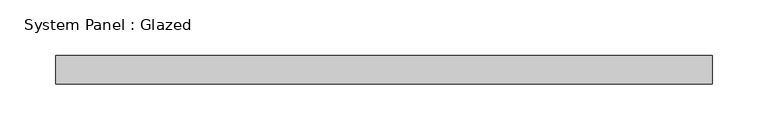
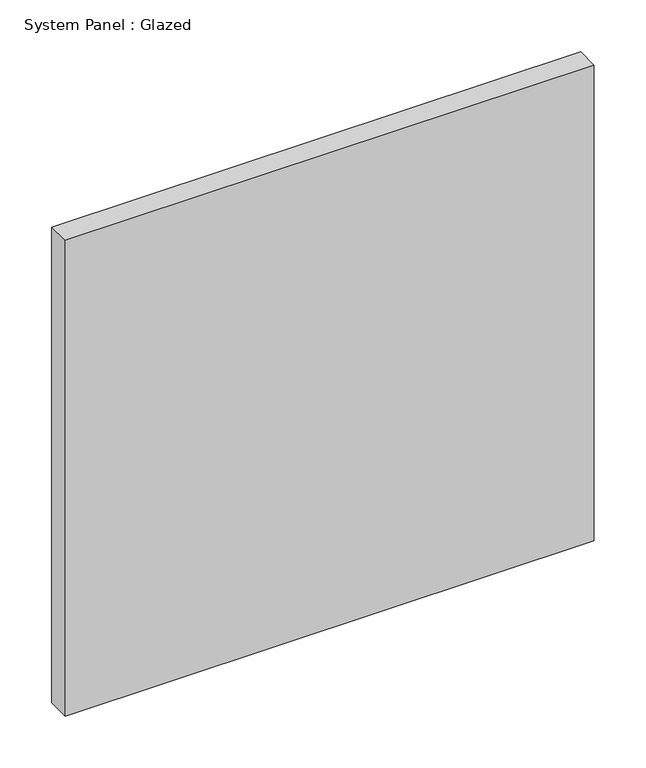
"""IFC4 building model written with IfcOpenShell, lengths in millimetres: plate geometry, System Panel : Glazed."""

import ifcopenshell
import ifcopenshell.guid

model = None  # the IFC model being written
_history = None  # IfcOwnerHistory: only IFC2X3 demands one
_inside = {}  # id of a spatial element -> (the spatial element, [elements in it])
_under = {}  # id of a project, library or spatial element -> (it, [spatial elements below it])
_declared = {}  # id of a project -> (the project, [libraries it declares])
_typed = {}  # id of a type object -> (the type object, [elements of that type])
_made_of = {}  # id of a material, layer set ... -> (it, [elements and type objects made of it])


def new_model(schema):
    """Start an empty IFC model of exactly this schema.

    Asked for "IFC4X3", IfcOpenShell would pick the latest addendum, in which some entities
    have other attributes; the version numbers below select the first issue.
    IFC2X3 requires an IfcOwnerHistory on every rooted entity: one is made here for all.
    """
    global model, _history
    if schema == "IFC4X3":
        model = ifcopenshell.file(schema_version=(4, 3, 0, 0))
    else:
        model = ifcopenshell.file(schema=schema)
    _inside.clear()
    _under.clear()
    _declared.clear()
    _typed.clear()
    _made_of.clear()
    _history = None
    if model.schema == "IFC2X3":
        org = make("IfcOrganization", Name="unknown")
        user = make(
            "IfcPersonAndOrganization",
            ThePerson=make("IfcPerson", FamilyName="unknown"),
            TheOrganization=org,
        )
        app = make(
            "IfcApplication",
            ApplicationDeveloper=org,
            Version="unknown",
            ApplicationFullName="unknown",
            ApplicationIdentifier="unknown",
        )
        _history = make(
            "IfcOwnerHistory",
            OwningUser=user,
            OwningApplication=app,
            ChangeAction="ADDED",
            CreationDate=0,
        )
    return model


def make(cls, **values):
    """One entity of the class cls with the attributes given. An attribute that is None is left unset."""
    return model.create_entity(
        cls, **{name: value for name, value in values.items() if value is not None}
    )


def rooted(cls, **values):
    """An entity with a GlobalId (a new one), such as an element, a storey or a relation."""
    return make(cls, GlobalId=ifcopenshell.guid.new(), OwnerHistory=_history, **values)


def si_unit(unit_type, name, prefix=None):
    """IfcSIUnit, for example si_unit("LENGTHUNIT", "METRE", prefix="MILLI")."""
    return make("IfcSIUnit", UnitType=unit_type, Prefix=prefix, Name=name)


def assignment(units):
    """IfcUnitAssignment: the units of a project."""
    return None if units is None else make("IfcUnitAssignment", Units=units)


def point(xyz):
    """IfcCartesianPoint."""
    return None if xyz is None else make("IfcCartesianPoint", Coordinates=xyz)


def direction(xyz):
    """IfcDirection."""
    return None if xyz is None else make("IfcDirection", DirectionRatios=xyz)


def frame(location, z_axis=None, x_axis=None):
    """IfcAxis2Placement3D, a coordinate frame: its origin and axes. An axis left out is left unset."""
    return make(
        "IfcAxis2Placement3D",
        Location=point(location),
        Axis=direction(z_axis),
        RefDirection=direction(x_axis),
    )


def origin():
    """The frame at (0, 0, 0) with its axes left unset."""
    return frame((0.0, 0.0, 0.0))


def origin_with_axes():
    """The frame at (0, 0, 0) with the z axis (0, 0, 1) and the x axis (1, 0, 0) written out."""
    return frame((0.0, 0.0, 0.0), z_axis=(0.0, 0.0, 1.0), x_axis=(1.0, 0.0, 0.0))


def place(relative_to, where):
    """IfcLocalPlacement: puts the frame where relative to a parent placement (None: the world)."""
    return make(
        "IfcLocalPlacement", PlacementRelTo=relative_to, RelativePlacement=where
    )


def context(
    kind, dimensions, precision=None, world=None, true_north=None, identifier=None
):
    """IfcGeometricRepresentationContext, for example the 3D "Model" context."""
    return make(
        "IfcGeometricRepresentationContext",
        ContextIdentifier=identifier,
        ContextType=kind,
        CoordinateSpaceDimension=dimensions,
        Precision=precision,
        WorldCoordinateSystem=world,
        TrueNorth=true_north,
    )


def project(units=None, contexts=None):
    """IfcProject with its units and contexts."""
    return rooted(
        "IfcProject",
        Name="project",
        RepresentationContexts=contexts,
        UnitsInContext=assignment(units),
    )


def spatial(cls, under=None, at=None, **own):
    """A site, building, storey or space (cls), placed at a placement, below another one or the project."""
    s = rooted(cls, ObjectPlacement=at, **own)
    if under is not None:
        _under.setdefault(under.id(), (under, []))[1].append(s)
    return s


def polyline(points):
    """IfcPolyline through the points."""
    return make("IfcPolyline", Points=[point(p) for p in points])


def outline(outer, holes=None, kind="AREA"):
    """IfcArbitraryClosedProfileDef: a profile drawn as a closed curve; with holes, ...WithVoids."""
    if holes is None:
        return make("IfcArbitraryClosedProfileDef", ProfileType=kind, OuterCurve=outer)
    return make(
        "IfcArbitraryProfileDefWithVoids",
        ProfileType=kind,
        OuterCurve=outer,
        InnerCurves=holes,
    )


def extrude(swept, where, along, depth):
    """IfcExtrudedAreaSolid: the profile swept, set in the frame where, extruded along a direction by depth."""
    return make(
        "IfcExtrudedAreaSolid",
        SweptArea=swept,
        Position=where,
        ExtrudedDirection=direction(along),
        Depth=depth,
    )


def shape(context_of_items, identifier, shape_type, items):
    """IfcShapeRepresentation: the items that make up one representation, for example the "Body"."""
    return make(
        "IfcShapeRepresentation",
        ContextOfItems=context_of_items,
        RepresentationIdentifier=identifier,
        RepresentationType=shape_type,
        Items=items,
    )


def source(mapping_origin, context_of_items, identifier, shape_type, items):
    """IfcRepresentationMap: a shape defined once, which mapped items show again and again."""
    return make(
        "IfcRepresentationMap",
        MappingOrigin=mapping_origin,
        MappedRepresentation=shape(context_of_items, identifier, shape_type, items),
    )


def transform(
    local_origin,
    x_axis=None,
    y_axis=None,
    z_axis=None,
    scale=None,
    scale2=None,
    scale3=None,
    uniform=True,
):
    """IfcCartesianTransformationOperator3D, or its non-uniform kind. x_axis, y_axis, z_axis: its Axis1, 2, 3."""
    if uniform:
        return make(
            "IfcCartesianTransformationOperator3D",
            Axis1=direction(x_axis),
            Axis2=direction(y_axis),
            LocalOrigin=point(local_origin),
            Scale=scale,
            Axis3=direction(z_axis),
        )
    return make(
        "IfcCartesianTransformationOperator3DnonUniform",
        Axis1=direction(x_axis),
        Axis2=direction(y_axis),
        LocalOrigin=point(local_origin),
        Scale=scale,
        Axis3=direction(z_axis),
        Scale2=scale2,
        Scale3=scale3,
    )


def mapped(mapping_source, mapping_target):
    """IfcMappedItem: shows the shape of a source again, moved by a transform."""
    return make(
        "IfcMappedItem", MappingSource=mapping_source, MappingTarget=mapping_target
    )


def made_of(thing, what):
    """Note that an element or type object is made of a material, layer set ...; save() writes the relation."""
    if what is not None:
        _made_of.setdefault(what.id(), (what, []))[1].append(thing)
    return thing


def element(
    cls,
    number,
    at=None,
    inside=None,
    cuts=None,
    type_object=None,
    material=None,
    context=None,
    identifier="Body",
    shape_type=None,
    held_by="IfcProductDefinitionShape",
    body=None,
    shapes=None,
    **own,
):
    """One element of the class cls, such as IfcWall. Its Tag is "e" and its number.

    at: its placement. inside: the storey or other place that contains it. cuts: it is an
    opening in that element (IfcRelVoidsElement). A single representation is given by context,
    identifier, shape_type and body (its items); several are given by shapes. held_by: the class
    of the entity that holds the representations. save() writes the other relations.
    """
    e = rooted(cls, Tag="e%d" % number, ObjectPlacement=at, **own)
    if body is not None:
        shapes = [shape(context, identifier, shape_type, body)]
    if shapes is not None:
        e.Representation = make(held_by, Representations=shapes)
    if inside is not None:
        _inside.setdefault(inside.id(), (inside, []))[1].append(e)
    if cuts is not None:
        rooted(
            "IfcRelVoidsElement", RelatingBuildingElement=cuts, RelatedOpeningElement=e
        )
    if type_object is not None:
        _typed.setdefault(type_object.id(), (type_object, []))[1].append(e)
    return made_of(e, material)


def aggregate(whole, parts):
    """IfcRelAggregates: a whole, such as a stair, and the parts it consists of."""
    return rooted("IfcRelAggregates", RelatingObject=whole, RelatedObjects=parts)


def save(model, path):
    """Write the relations noted so far, then the file.

    IfcRelAggregates (storeys below a building ...), IfcRelContainedInSpatialStructure (elements
    in a storey), IfcRelDefinesByType, IfcRelAssociatesMaterial and IfcRelDeclares: one each for
    every whole, place, type object, material and project.
    """
    for whole, parts in _under.values():
        aggregate(whole, parts)
    for where, things in _inside.values():
        rooted(
            "IfcRelContainedInSpatialStructure",
            RelatedElements=things,
            RelatingStructure=where,
        )
    for kind, things in _typed.values():
        rooted("IfcRelDefinesByType", RelatedObjects=things, RelatingType=kind)
    for what, things in _made_of.values():
        rooted("IfcRelAssociatesMaterial", RelatedObjects=things, RelatingMaterial=what)
    for by, libraries in _declared.values():
        rooted("IfcRelDeclares", RelatingContext=by, RelatedDefinitions=libraries)
    model.write(path)


def system_panel_glazed_b07b32a6(model_context):
    return source(origin(), model_context, "Body", "SweptSolid", [
        extrude(outline(polyline([(293.9494187, -12.7), (-293.9494187, -12.7), (-293.9494187, 12.7), (293.9494187, 12.7), (293.9494187, -12.7)])), origin_with_axes(), (0.0, 0.0, 1.0), 558.8),
    ])


if __name__ == "__main__":
    model = new_model("IFC4")
    model_context = context("Model", 3, world=origin())
    ifc_project = project(units=[si_unit("LENGTHUNIT", "METRE", prefix="MILLI")], contexts=[model_context])
    site = spatial("IfcSite", under=ifc_project)
    building = spatial("IfcBuilding", under=site)
    placement = place(None, origin())
    system_panel_glazed_shape = system_panel_glazed_b07b32a6(model_context)
    element("IfcPlate", 1, ObjectType="System Panel : Glazed", at=placement, inside=building, context=model_context, shape_type="MappedRepresentation", body=[
        mapped(system_panel_glazed_shape, transform((0.0, 0.0, 0.0), x_axis=(1.0, 0.0, 0.0), y_axis=(0.0, 1.0, 0.0), z_axis=(0.0, 0.0, 1.0))),
    ])
    save(model, "model.ifc")
